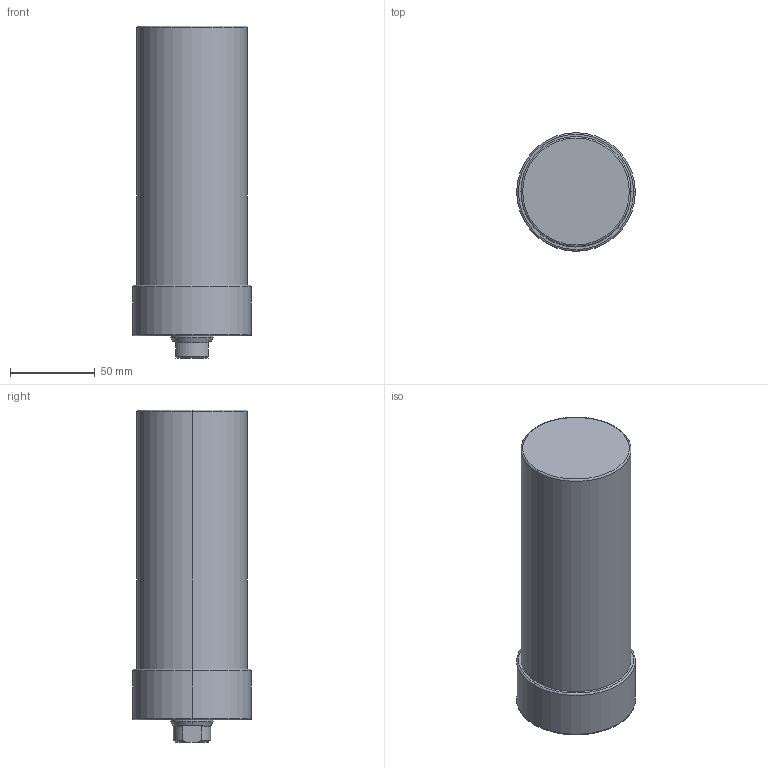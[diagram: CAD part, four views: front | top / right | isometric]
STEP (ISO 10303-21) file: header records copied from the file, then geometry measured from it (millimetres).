
FILE_DESCRIPTION (( 'STEP AP203' ), '1' );
FILE_NAME ('CLLU-065GA-120.STEP', '2020-01-07T00:12:30', ( '' ), ( '' ), 'SwSTEP 2.0', 'SolidWorks 2015', '' );
FILE_SCHEMA (( 'CONFIG_CONTROL_DESIGN' ));
Length unit declared in the file: millimetre
Products named in the file (1): CLLU-065GA-120
Bounding box: 70 x 70 x 196 mm (x, y, z)
Volume: 623588.9 mm3; surface area: 48267.8 mm2
Topology: 1 solids, 1 shells, 62 faces, 140 edges, 79 vertices
Faces by surface type: cone 24, cylinder 22, plane 10, torus 6
Entity records: 1751 total; most frequent: DIRECTION 320, CARTESIAN_POINT 300, ORIENTED_EDGE 260, AXIS2_PLACEMENT_3D 135, EDGE_CURVE 130, VERTEX_POINT 79, CIRCLE 72, EDGE_LOOP 71
